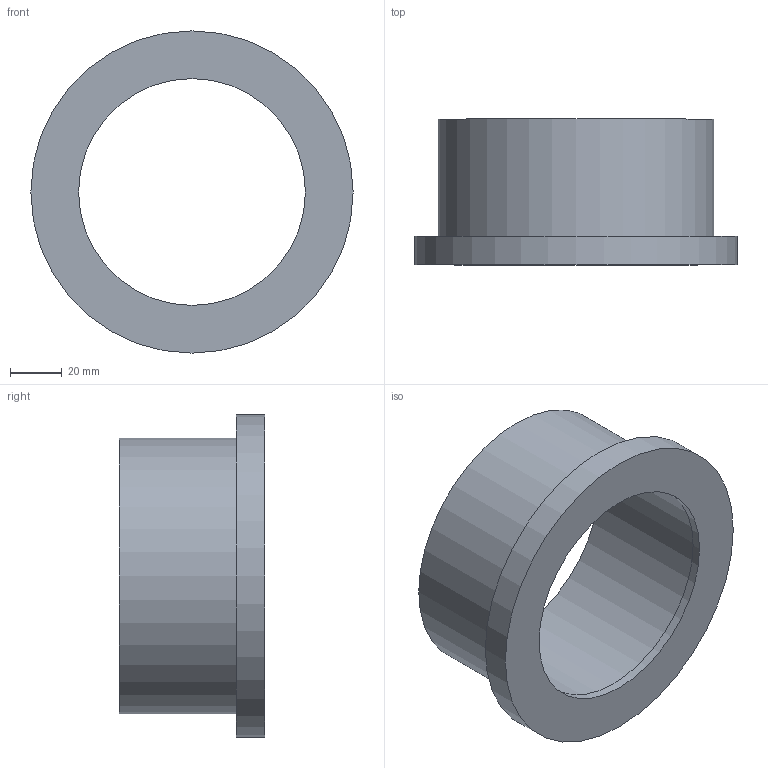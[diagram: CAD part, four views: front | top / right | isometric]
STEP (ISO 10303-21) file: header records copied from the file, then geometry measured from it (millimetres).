
FILE_DESCRIPTION(/* description */ ('PVC collare rigato incollaggio metrico'),/* implementation_level */ '2;1');
FILE_NAME(/* name */ 'C:\Users\POLYPIPE\Desktop\DATASET INVENTOR\LIBRERIA EFFAST\RACCORDI 3DxWEB\RDR\3D_RDRQRD\3D_RDRQRD0900.stp',/* time_stamp */ '2018-01-19T15:25:58+01:00',/* author */ ('POLYPIPE'),/* organization */ ('Polypipe Italia s.r.l.'),/* preprocessor_version */ 'ST-DEVELOPER v16.1',/* originating_system */ 'Autodesk Inventor 2016',/* authorisation */ '');
FILE_SCHEMA (('CONFIG_CONTROL_DESIGN'));
Length unit declared in the file: millimetre
Products named in the file (1): 3D_RDRQRD
Bounding box: 125 x 56.5 x 125 mm (x, y, z)
Volume: 185668.5 mm3; surface area: 47947 mm2
Topology: 1 solids, 1 shells, 8 faces, 12 edges, 8 vertices
Faces by surface type: plane 4, cylinder 4
Full cylindrical faces by diameter (mm): 88 x1, 90 x1, 107 x1, 125 x1
Entity records: 192 total; most frequent: DIRECTION 34, CARTESIAN_POINT 25, AXIS2_PLACEMENT_3D 17, EDGE_LOOP 16, ORIENTED_EDGE 16, FACE_BOUND 8, FACE_OUTER_BOUND 8, CIRCLE 8
